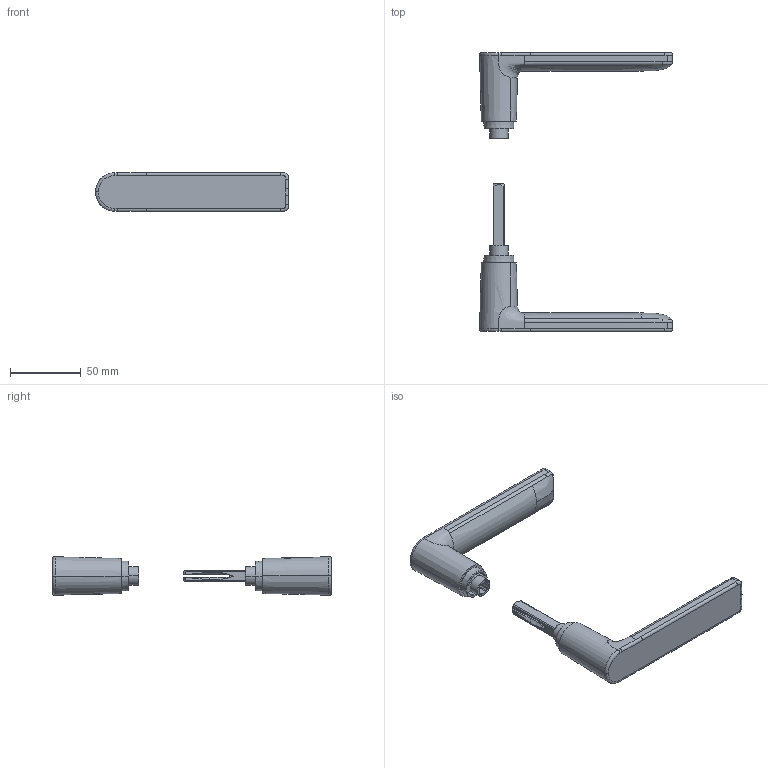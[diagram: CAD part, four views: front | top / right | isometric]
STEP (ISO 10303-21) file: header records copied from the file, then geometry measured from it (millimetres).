
FILE_DESCRIPTION((''),'2;1');
FILE_NAME('AIR_HANDLES_11_2025_05_06_ASM','2025-05-06T12:33:17',('carlone'),(''),'CREO PARAMETRIC BY PTC INC, 2020454','CREO PARAMETRIC BY PTC INC, 2020454','');
FILE_SCHEMA(('CONFIG_CONTROL_DESIGN','SHAPE_APPEARANCE_LAYERS_GROUPS'));
Length unit declared in the file: millimetre
Products named in the file (3): AIR_MANIGLIA_CIE_2025_05_06; AIR_SPINDLE_2025_05_06; AIR_HANDLES_11_2025_05_06_ASM
Assembly tree (3 placements, depth 2):
  AIR_HANDLES_11_2025_05_06_ASM
    AIR_MANIGLIA_CIE_2025_05_06  x2
    AIR_SPINDLE_2025_05_06
Bounding box: 136.17 x 196.8 x 27.17 mm (x, y, z)
Volume: 116695.4 mm3; surface area: 37000.9 mm2
Topology: 3 solids, 7 shells, 346 faces, 1016 edges, 680 vertices
Faces by surface type: plane 128, cylinder 80, bspline 60, cone 54, torus 20, extrusion 4
Entity records: 13591 total; most frequent: CARTESIAN_POINT 8838, ORIENTED_EDGE 1092, DIRECTION 809, EDGE_CURVE 548, VERTEX_POINT 368, AXIS2_PLACEMENT_3D 310, B_SPLINE_CURVE_WITH_KNOTS 217, EDGE_LOOP 198
